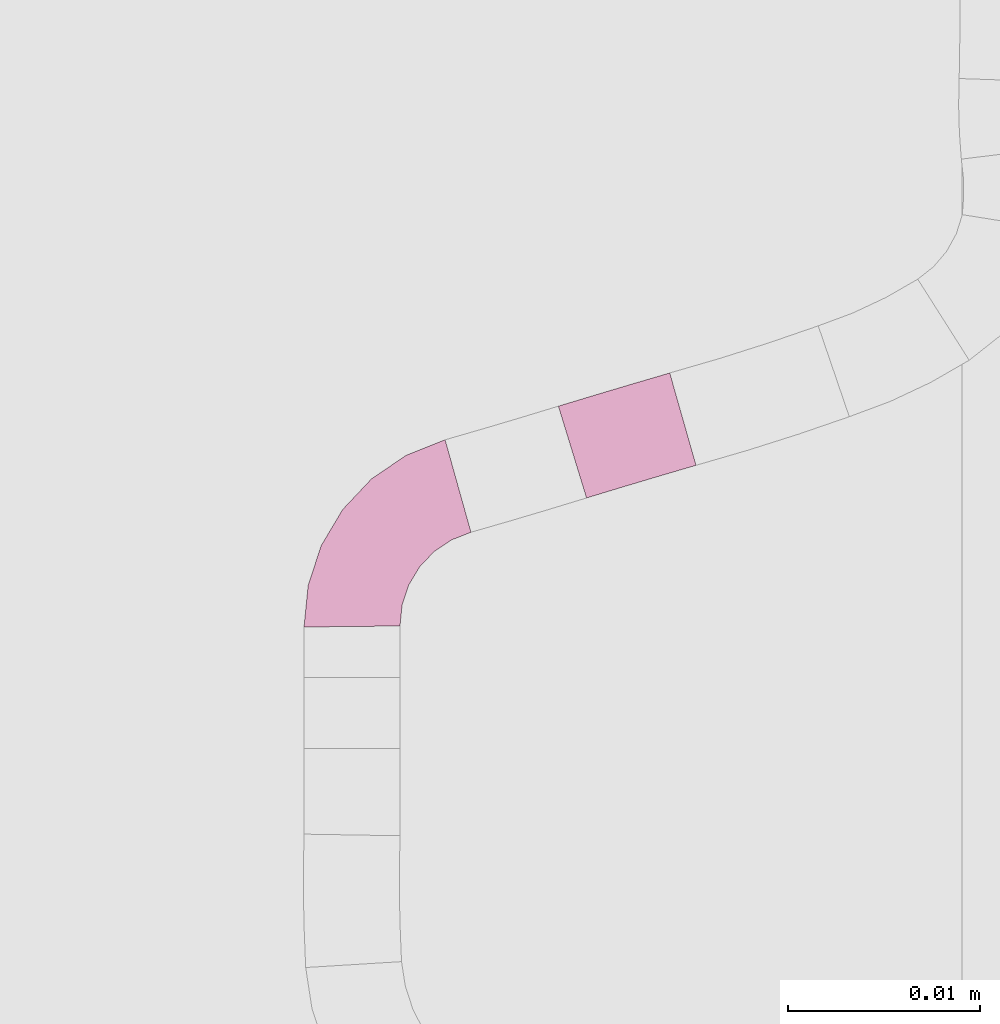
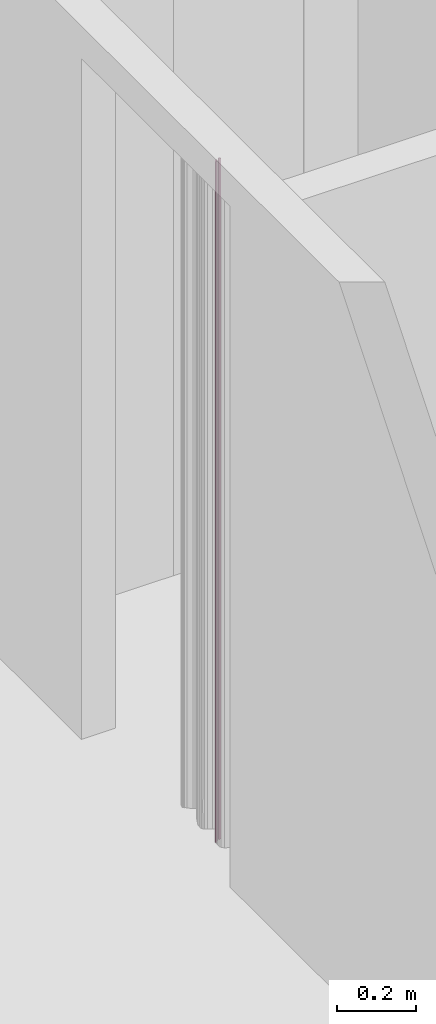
# One storey, part 192 of 418: 2 furnishings.
"""IFC2X3 building model written with IfcOpenShell, lengths in millimetres."""

from ifc_helpers import new_model, entity, si_unit, converted_unit, derived_unit, money_unit, point, direction, frame, frame_2d, origin_with_axes, place, context, subcontext, project, spatial, polyline, circle_curve, parameter, trimmed, segment, composite_curve, outline, extrude, material, type_object, element, save


model = new_model("IFC2X3")

# Units and contexts
model_context = context("Model", 3, precision=0.01, world=origin_with_axes(), true_north=direction((0.0, 1.0)))
body_context = subcontext(model_context, "Body", "Model", "MODEL_VIEW")
ifc_project = project(units=[si_unit("LENGTHUNIT", "METRE", prefix="MILLI"), si_unit("AREAUNIT", "SQUARE_METRE"), si_unit("VOLUMEUNIT", "CUBIC_METRE"), converted_unit("PLANEANGLEUNIT", "DEGREE", entity("IfcPlaneAngleMeasure", 0.0174532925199), si_unit("PLANEANGLEUNIT", "RADIAN"), dimensions=[0, 0, 0, 0, 0, 0, 0]), si_unit("SOLIDANGLEUNIT", "STERADIAN"), money_unit("EUR"), converted_unit("TIMEUNIT", "Year", entity("IfcTimeMeasure", 31556926.0), si_unit("TIMEUNIT", "SECOND"), dimensions=[0, 0, 1, 0, 0, 0, 0]), si_unit("MASSUNIT", "GRAM", prefix="KILO"), si_unit("THERMODYNAMICTEMPERATUREUNIT", "DEGREE_CELSIUS"), si_unit("LUMINOUSINTENSITYUNIT", "LUMEN"), si_unit("ENERGYUNIT", "JOULE", prefix="MEGA"), derived_unit("THERMALCONDUCTANCEUNIT", [(si_unit("POWERUNIT", "WATT"), 1), (si_unit("LENGTHUNIT", "METRE"), -1), (si_unit("THERMODYNAMICTEMPERATUREUNIT", "KELVIN"), -1)]), derived_unit("SPECIFICHEATCAPACITYUNIT", [(si_unit("ENERGYUNIT", "JOULE"), 1), (si_unit("MASSUNIT", "GRAM", prefix="KILO"), -1), (si_unit("THERMODYNAMICTEMPERATUREUNIT", "KELVIN"), -1)]), derived_unit("MASSDENSITYUNIT", [(si_unit("MASSUNIT", "GRAM", prefix="KILO"), 1), (si_unit("VOLUMEUNIT", "CUBIC_METRE"), -1)])], contexts=[model_context])

# Site, building, storey
site_placement = place(None, origin_with_axes())
site = spatial("IfcSite", under=ifc_project, at=site_placement, Name="Paldiski mnt 245/1, Tallinn, Harjumaa", CompositionType="COMPLEX")
building_placement = place(site_placement, origin_with_axes())
building = spatial("IfcBuilding", under=site, at=building_placement, Name="RKAS Hoone üldnimetus (kasutust iseloomustav) -> IFC Project Manager -> SOLIBRI", CompositionType="ELEMENT")
storey_placement = place(building_placement, origin_with_axes())
storey = spatial("IfcBuildingStorey", under=building, at=storey_placement, Name="Esimene korrus", CompositionType="ELEMENT", Elevation=0.0)

# Furnishings
ifc_material = material(Name="KON-00_GENEERILINE - KONSTRUKTSIOON")
furniture_type = type_object("IfcFurnitureType", Name="KON-00_GENEERILINE - KONSTRUKTSIOON 5", AssemblyPlace="NOTDEFINED")
furnishing_1_placement = place(storey_placement, frame((-45037.6282743, -1168.8905534, 0.0), z_axis=(0.0, 0.0, 1.0), x_axis=(-0.960094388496, -0.27967617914, 0.0)))
element("IfcFurnishingElement", 1, at=furnishing_1_placement, inside=storey, type_object=furniture_type, material=ifc_material, Name="SS-07", context=body_context, shape_type="SweptSolid", body=[
    extrude(outline(composite_curve([segment(trimmed(circle_curve(frame_2d((0.0, 480.648708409), x_axis=(0.0, -1.0)), 480.648708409), [point((0.0, 0.0)), parameter(0.0)], [point((6.05234696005, 0.0381072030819)), parameter(0.721489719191)], True, "CARTESIAN"), True, "CONTINUOUS"), segment(polyline([(6.05234696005, 0.0381072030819), (5.9812472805, 5.03760835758)]), True, "CONTINUOUS"), segment(trimmed(circle_curve(frame_2d((-1.06528501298e-10, 480.648708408), x_axis=(6.81798574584e-05, -0.999999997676)), 475.648708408), [point((5.9812472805, 5.03760835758)), parameter(0.71660275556)], [point((0.032429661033, 5.00000110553)), parameter(0.0)], False, "CARTESIAN"), True, "CONTINUOUS"), segment(polyline([(0.032429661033, 5.00000110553), (0.0, 0.0)]), True, "CONTINUOUS")], self_intersect=False)), origin_with_axes(), (0.0, 0.0, 1.0), 2100.0),
])
furnishing_2_placement = place(storey_placement, frame((-45049.3283766, -1172.37147325, 0.0), z_axis=(0.0, 0.0, 1.0), x_axis=(-0.963986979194, -0.265949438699, 0.0)))
element("IfcFurnishingElement", 2, at=furnishing_2_placement, inside=storey, type_object=furniture_type, material=ifc_material, Name="SS-09", context=body_context, shape_type="SweptSolid", body=[
    extrude(outline(composite_curve([segment(trimmed(circle_curve(frame_2d((0.0, 10.0135350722), x_axis=(0.0, -1.0)), 10.0135350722), [point((0.0, 0.0)), parameter(0.0)], [point((9.67862147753, 7.44542858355)), parameter(75.1396768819)], True, "CARTESIAN"), True, "CONTINUOUS"), segment(polyline([(9.67862147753, 7.44542858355), (4.84431604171, 8.7219716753)]), True, "CONTINUOUS"), segment(trimmed(circle_curve(frame_2d((0.0, 10.0135350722), x_axis=(-0.00357183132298, -0.99999362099)), 5.01353507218), [point((4.84431604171, 8.7219716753)), parameter(75.2760412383)], [point((-0.0179075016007, 5.00003198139)), parameter(0.0)], False, "CARTESIAN"), True, "CONTINUOUS"), segment(polyline([(-0.0179075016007, 5.00003198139), (0.0, 0.0)]), True, "CONTINUOUS")], self_intersect=False)), origin_with_axes(), (0.0, 0.0, 1.0), 2100.0),
])

save(model, "model.ifc")
